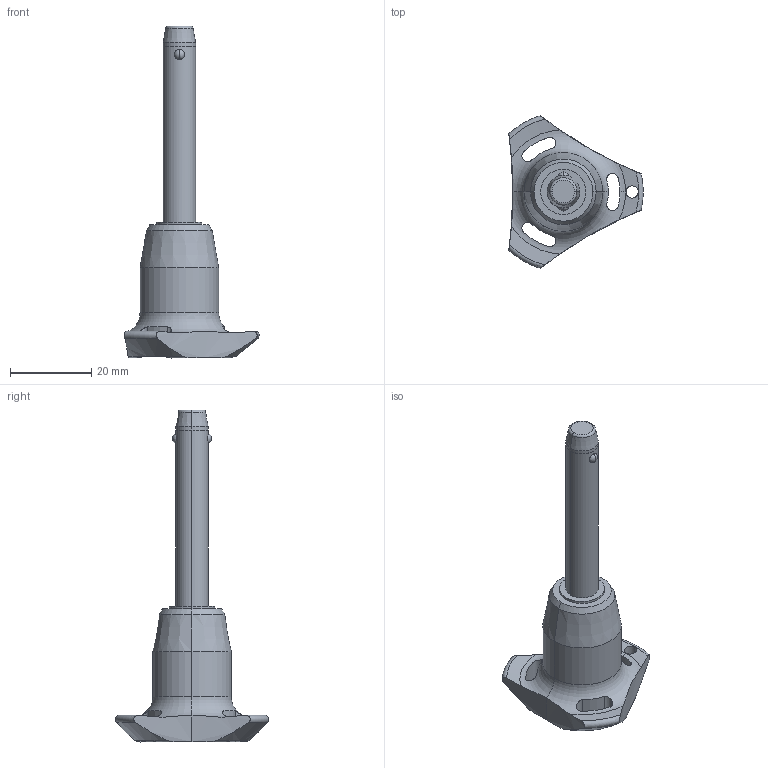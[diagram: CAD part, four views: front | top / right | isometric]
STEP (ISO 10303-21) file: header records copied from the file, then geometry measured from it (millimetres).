
FILE_DESCRIPTION (( 'STEP AP203' ), '1' );
FILE_NAME ('QR1716.M08-040-T.step', '2025-11-13T10:30:15', ( '' ), ( '' ), 'SwSTEP 2.0', 'SolidWorks 2019', '' );
FILE_SCHEMA (( 'CONFIG_CONTROL_DESIGN' ));
Length unit declared in the file: millimetre
Products named in the file (1): QR1716.M08-040-T
Bounding box: 33 x 37.51 x 81.5 mm (x, y, z)
Volume: 12660.6 mm3; surface area: 5060.1 mm2
Topology: 1 solids, 1 shells, 68 faces, 180 edges, 113 vertices
Faces by surface type: cylinder 32, cone 14, torus 11, sphere 6, plane 5
Entity records: 2826 total; most frequent: CARTESIAN_POINT 1086, ORIENTED_EDGE 360, DIRECTION 347, EDGE_CURVE 180, AXIS2_PLACEMENT_3D 154, VERTEX_POINT 113, CIRCLE 85, EDGE_LOOP 75
